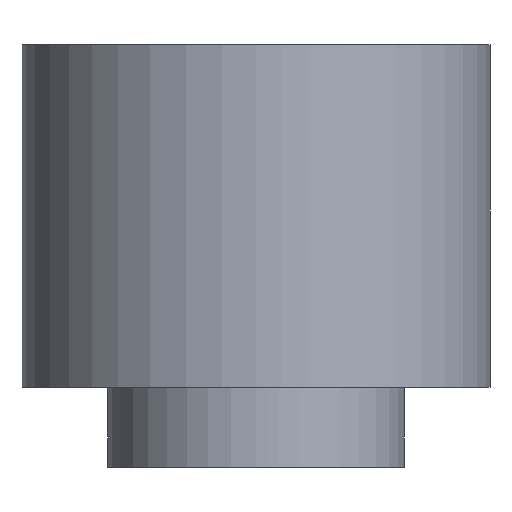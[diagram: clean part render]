
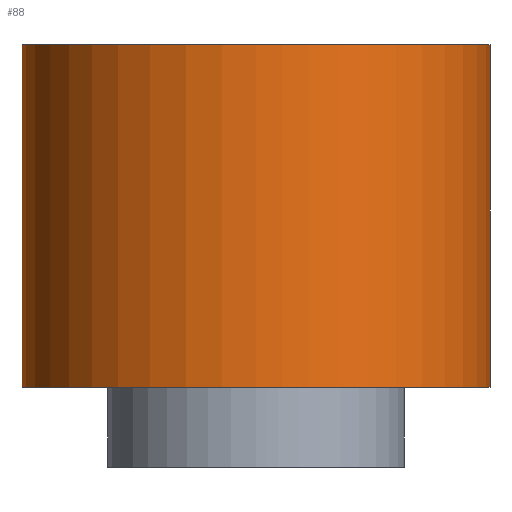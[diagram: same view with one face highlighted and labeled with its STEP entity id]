
A CAD part, left-side view. The second image highlights one B-rep face of the part: STEP entity #88.
In plain terms, the highlighted free-form (B-spline) face has degree [2, 1] with [7, 2] control points.
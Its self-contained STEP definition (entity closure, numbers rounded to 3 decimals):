
#69 = EDGE_CURVE('',#70,#70,#72,.T.);
#70 = VERTEX_POINT('',#71);
#71 = CARTESIAN_POINT('',(-4.1,0.,0.));
#72 = ( BOUNDED_CURVE() B_SPLINE_CURVE(2,(#73,#74,#75,#76,#77,#78,#79),
.UNSPECIFIED.,.T.,.F.) B_SPLINE_CURVE_WITH_KNOTS((1,2,2,2,2,1),(
    -2.094,0.,2.094,4.189,6.283,
8.378),.UNSPECIFIED.) CURVE() GEOMETRIC_REPRESENTATION_ITEM() 
RATIONAL_B_SPLINE_CURVE((1.,0.5,1.,0.5,1.,0.5,1.)) REPRESENTATION_ITEM(
  '') );
#73 = CARTESIAN_POINT('',(-4.1,0.,0.));
#74 = CARTESIAN_POINT('',(-4.1,7.101,0.));
#75 = CARTESIAN_POINT('',(2.05,3.551,0.));
#76 = CARTESIAN_POINT('',(8.2,0.,0.));
#77 = CARTESIAN_POINT('',(2.05,-3.551,0.));
#78 = CARTESIAN_POINT('',(-4.1,-7.101,0.));
#79 = CARTESIAN_POINT('',(-4.1,0.,0.));
#88 = ADVANCED_FACE('',(#89),#110,.T.);
#89 = FACE_BOUND('',#90,.T.);
#90 = EDGE_LOOP('',(#91,#103,#108,#109));
#91 = ORIENTED_EDGE('',*,*,#92,.T.);
#92 = EDGE_CURVE('',#93,#93,#95,.T.);
#93 = VERTEX_POINT('',#94);
#94 = CARTESIAN_POINT('',(-4.1,0.,6.));
#95 = ( BOUNDED_CURVE() B_SPLINE_CURVE(2,(#96,#97,#98,#99,#100,#101,#102
),.UNSPECIFIED.,.T.,.F.) B_SPLINE_CURVE_WITH_KNOTS((1,2,2,2,2,1),(
    -2.094,0.,2.094,4.189,6.283,
8.378),.UNSPECIFIED.) CURVE() GEOMETRIC_REPRESENTATION_ITEM() 
RATIONAL_B_SPLINE_CURVE((1.,0.5,1.,0.5,1.,0.5,1.)) REPRESENTATION_ITEM(
  '') );
#96 = CARTESIAN_POINT('',(-4.1,0.,6.));
#97 = CARTESIAN_POINT('',(-4.1,7.101,6.));
#98 = CARTESIAN_POINT('',(2.05,3.551,6.));
#99 = CARTESIAN_POINT('',(8.2,0.,6.));
#100 = CARTESIAN_POINT('',(2.05,-3.551,6.));
#101 = CARTESIAN_POINT('',(-4.1,-7.101,6.));
#102 = CARTESIAN_POINT('',(-4.1,0.,6.));
#103 = ORIENTED_EDGE('',*,*,#104,.F.);
#104 = EDGE_CURVE('',#70,#93,#105,.T.);
#105 = B_SPLINE_CURVE_WITH_KNOTS('',1,(#106,#107),.UNSPECIFIED.,.F.,.F.,
  (2,2),(0.,6.),.PIECEWISE_BEZIER_KNOTS.);
#106 = CARTESIAN_POINT('',(-4.1,0.,0.));
#107 = CARTESIAN_POINT('',(-4.1,0.,6.));
#108 = ORIENTED_EDGE('',*,*,#69,.F.);
#109 = ORIENTED_EDGE('',*,*,#104,.T.);
#110 = ( BOUNDED_SURFACE() B_SPLINE_SURFACE(2,1,(
    (#111,#112)
    ,(#113,#114)
    ,(#115,#116)
    ,(#117,#118)
    ,(#119,#120)
    ,(#121,#122)
,(#123,#124
    )),.UNSPECIFIED.,.T.,.F.,.F.) B_SPLINE_SURFACE_WITH_KNOTS((1,2,2,2,2
    ,1),(2,2),(-2.094,0.,2.094,4.189,
    6.283,8.378),(0.,6.),.UNSPECIFIED.) 
GEOMETRIC_REPRESENTATION_ITEM() RATIONAL_B_SPLINE_SURFACE((
    (1.,1.)
    ,(0.5,0.5)
    ,(1.,1.)
    ,(0.5,0.5)
    ,(1.,1.)
    ,(0.5,0.5)
,(1.,1.))) REPRESENTATION_ITEM('') SURFACE() );
#111 = CARTESIAN_POINT('',(-4.1,0.,0.));
#112 = CARTESIAN_POINT('',(-4.1,0.,6.));
#113 = CARTESIAN_POINT('',(-4.1,-7.101,0.));
#114 = CARTESIAN_POINT('',(-4.1,-7.101,6.));
#115 = CARTESIAN_POINT('',(2.05,-3.551,0.));
#116 = CARTESIAN_POINT('',(2.05,-3.551,6.));
#117 = CARTESIAN_POINT('',(8.2,0.,0.));
#118 = CARTESIAN_POINT('',(8.2,0.,6.));
#119 = CARTESIAN_POINT('',(2.05,3.551,0.));
#120 = CARTESIAN_POINT('',(2.05,3.551,6.));
#121 = CARTESIAN_POINT('',(-4.1,7.101,0.));
#122 = CARTESIAN_POINT('',(-4.1,7.101,6.));
#123 = CARTESIAN_POINT('',(-4.1,0.,0.));
#124 = CARTESIAN_POINT('',(-4.1,0.,6.));
